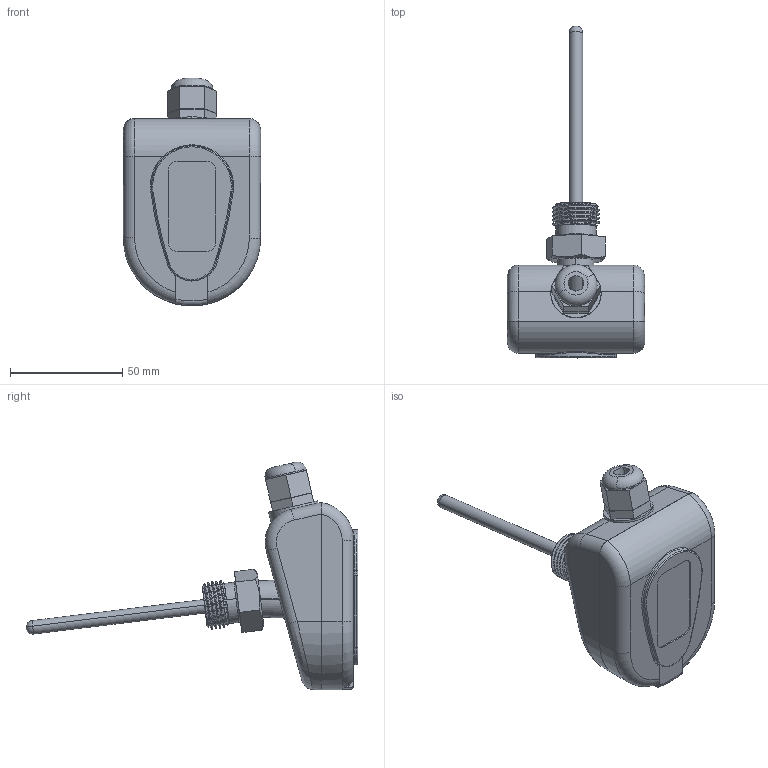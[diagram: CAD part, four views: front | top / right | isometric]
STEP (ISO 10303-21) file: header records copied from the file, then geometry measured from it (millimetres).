
FILE_DESCRIPTION (( 'STEP AP203' ), '1' );
FILE_NAME ('Ñáîðêà ESTF-80.STEP', '2019-10-08T11:31:53', ( '' ), ( '' ), 'SwSTEP 2.0', 'SolidWorks 2016', '' );
FILE_SCHEMA (( 'CONFIG_CONTROL_DESIGN' ));
Length unit declared in the file: millimetre
Products named in the file (12): Ãåðìîââîä; 秮鶋罻; 栖闉罻 ESTF-80; Êëåìíèê; 砎鍒鍱 1; 砎鍒鍱 2; 櫻蠉錪7^栖闉罻; 櫻蠉錪8^栖闉罻; ïëàòà, êðóãëàÿ; Êîðïóñ_„«ï âàã¡®ª; ESTF-PT1000-80-PVC-2; Êðûøêà
Assembly tree (11 placements, depth 2):
  栖闉罻 ESTF-80
    Êîðïóñ_„«ï âàã¡®ª
    Êðûøêà
    秮鶋罻
    Êëåìíèê
    砎鍒鍱 1
    砎鍒鍱 2
    櫻蠉錪7^栖闉罻
    櫻蠉錪8^栖闉罻
    ïëàòà, êðóãëàÿ
    ESTF-PT1000-80-PVC-2
    Ãåðìîââîä
Bounding box: 61.05 x 147.55 x 101.33 mm (x, y, z)
Volume: 66945.7 mm3; surface area: 61519.8 mm2
Topology: 11 solids, 11 shells, 497 faces, 1242 edges, 806 vertices
Faces by surface type: plane 249, cylinder 172, torus 32, bspline 26, cone 16, sphere 2
Entity records: 23095 total; most frequent: CARTESIAN_POINT 10118, ORIENTED_EDGE 2476, DIRECTION 2384, EDGE_CURVE 1238, AXIS2_PLACEMENT_3D 866, VERTEX_POINT 804, VECTOR 652, LINE 652
